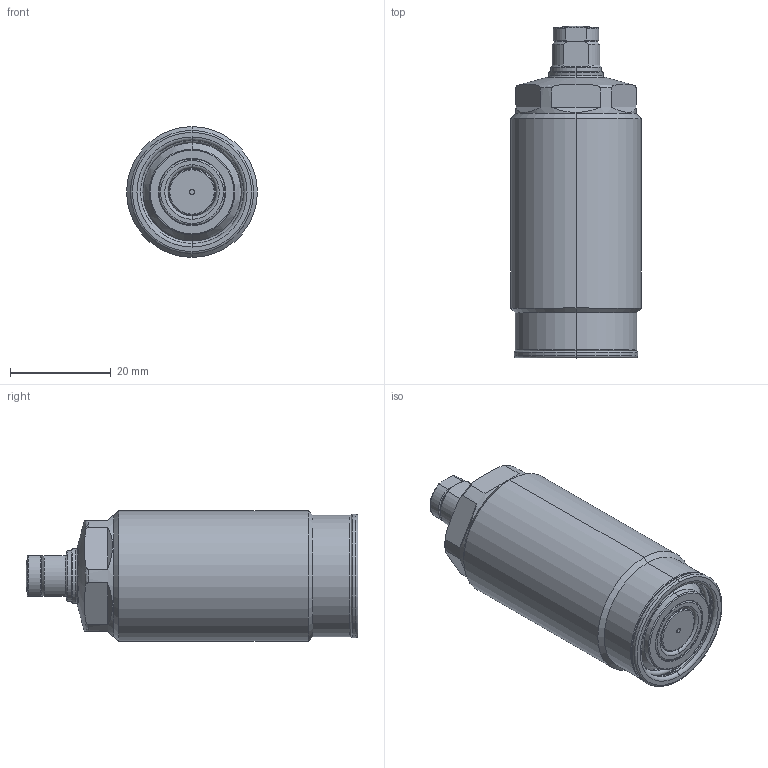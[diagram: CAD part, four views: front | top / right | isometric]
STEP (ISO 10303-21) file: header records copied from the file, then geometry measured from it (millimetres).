
FILE_DESCRIPTION(/* description */ (''),/* implementation_level */ '2;1');
FILE_NAME(/* name */ 'TSC26.stp',/* time_stamp */ '2024-11-02T14:25:11+08:00',/* author */ (''),/* organization */ (''),/* preprocessor_version */ 'ST-DEVELOPER v16.7',/* originating_system */ 'SIEMENS PLM Software NX 12.0',/* authorisation */ '');
FILE_SCHEMA (('AP203_CONFIGURATION_CONTROLLED_3D_DESIGN_OF_MECHANICAL_PARTS_AND_ASSEMBLIES_MIM_LF { 1 0 10303 403 2 1 2}'));
Length unit declared in the file: millimetre
Products named in the file (7): XLD-M6_Oring; XLD-M6_contactbolt; TSC26-03; TSC26-02; TSC26-01; TSC26-04; LD0263-x_step
Assembly tree (6 placements, depth 3):
  LD0263-x_step
    TSC26-01
    TSC26-02
    TSC26-03
    TSC26-04
      XLD-M6_contactbolt
      XLD-M6_Oring
Bounding box: 26 x 66 x 26 mm (x, y, z)
Volume: 28130.5 mm3; surface area: 7623.6 mm2
Topology: 5 solids, 5 shells, 177 faces, 384 edges, 227 vertices
Faces by surface type: torus 64, cylinder 44, plane 37, cone 30, sphere 2
Entity records: 5966 total; most frequent: CARTESIAN_POINT 1215, DIRECTION 948, ORIENTED_EDGE 768, AXIS2_PLACEMENT_3D 424, EDGE_CURVE 384, CIRCLE 240, VERTEX_POINT 227, EDGE_LOOP 191
